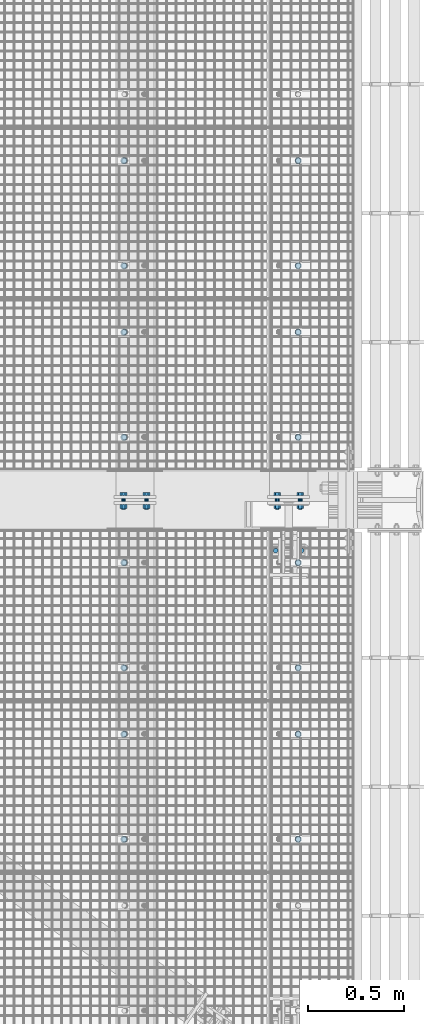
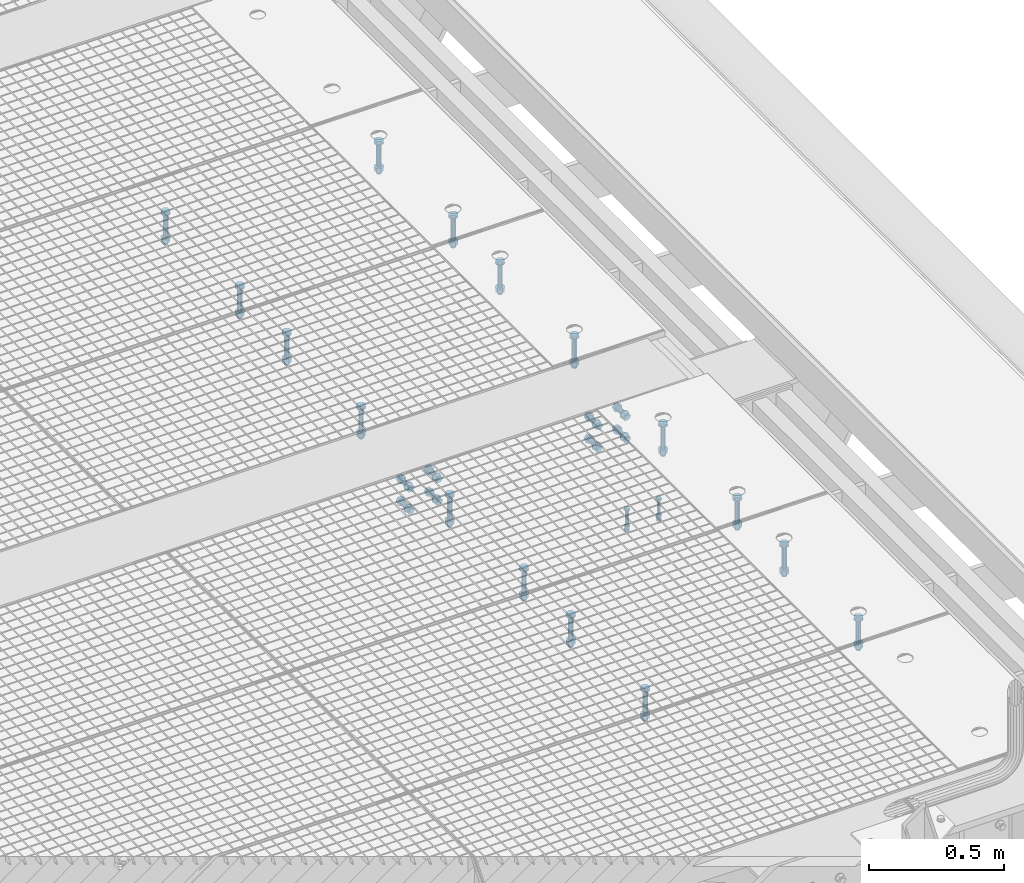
# One storey, part 52 of 1530: 11 mechanical fasteners.
"""IFC2X3 building model written with IfcOpenShell, lengths in millimetres."""

import ifcopenshell
import ifcopenshell.guid

model = None  # the IFC model being written
_history = None  # IfcOwnerHistory: only IFC2X3 demands one
_inside = {}  # id of a spatial element -> (the spatial element, [elements in it])
_under = {}  # id of a project, library or spatial element -> (it, [spatial elements below it])
_declared = {}  # id of a project -> (the project, [libraries it declares])
_typed = {}  # id of a type object -> (the type object, [elements of that type])
_made_of = {}  # id of a material, layer set ... -> (it, [elements and type objects made of it])


def new_model(schema):
    """Start an empty IFC model of exactly this schema.

    Asked for "IFC4X3", IfcOpenShell would pick the latest addendum, in which some entities
    have other attributes; the version numbers below select the first issue.
    IFC2X3 requires an IfcOwnerHistory on every rooted entity: one is made here for all.
    """
    global model, _history
    if schema == "IFC4X3":
        model = ifcopenshell.file(schema_version=(4, 3, 0, 0))
    else:
        model = ifcopenshell.file(schema=schema)
    _inside.clear()
    _under.clear()
    _declared.clear()
    _typed.clear()
    _made_of.clear()
    _history = None
    if model.schema == "IFC2X3":
        org = make("IfcOrganization", Name="unknown")
        user = make(
            "IfcPersonAndOrganization",
            ThePerson=make("IfcPerson", FamilyName="unknown"),
            TheOrganization=org,
        )
        app = make(
            "IfcApplication",
            ApplicationDeveloper=org,
            Version="unknown",
            ApplicationFullName="unknown",
            ApplicationIdentifier="unknown",
        )
        _history = make(
            "IfcOwnerHistory",
            OwningUser=user,
            OwningApplication=app,
            ChangeAction="ADDED",
            CreationDate=0,
        )
    return model


def make(cls, **values):
    """One entity of the class cls with the attributes given. An attribute that is None is left unset."""
    return model.create_entity(
        cls, **{name: value for name, value in values.items() if value is not None}
    )


def rooted(cls, **values):
    """An entity with a GlobalId (a new one), such as an element, a storey or a relation."""
    return make(cls, GlobalId=ifcopenshell.guid.new(), OwnerHistory=_history, **values)


def si_unit(unit_type, name, prefix=None):
    """IfcSIUnit, for example si_unit("LENGTHUNIT", "METRE", prefix="MILLI")."""
    return make("IfcSIUnit", UnitType=unit_type, Prefix=prefix, Name=name)


def assignment(units):
    """IfcUnitAssignment: the units of a project."""
    return None if units is None else make("IfcUnitAssignment", Units=units)


def point(xyz):
    """IfcCartesianPoint."""
    return None if xyz is None else make("IfcCartesianPoint", Coordinates=xyz)


def direction(xyz):
    """IfcDirection."""
    return None if xyz is None else make("IfcDirection", DirectionRatios=xyz)


def frame(location, z_axis=None, x_axis=None):
    """IfcAxis2Placement3D, a coordinate frame: its origin and axes. An axis left out is left unset."""
    return make(
        "IfcAxis2Placement3D",
        Location=point(location),
        Axis=direction(z_axis),
        RefDirection=direction(x_axis),
    )


def origin_with_axes():
    """The frame at (0, 0, 0) with the z axis (0, 0, 1) and the x axis (1, 0, 0) written out."""
    return frame((0.0, 0.0, 0.0), z_axis=(0.0, 0.0, 1.0), x_axis=(1.0, 0.0, 0.0))


def place(relative_to, where):
    """IfcLocalPlacement: puts the frame where relative to a parent placement (None: the world)."""
    return make(
        "IfcLocalPlacement", PlacementRelTo=relative_to, RelativePlacement=where
    )


def context(
    kind, dimensions, precision=None, world=None, true_north=None, identifier=None
):
    """IfcGeometricRepresentationContext, for example the 3D "Model" context."""
    return make(
        "IfcGeometricRepresentationContext",
        ContextIdentifier=identifier,
        ContextType=kind,
        CoordinateSpaceDimension=dimensions,
        Precision=precision,
        WorldCoordinateSystem=world,
        TrueNorth=true_north,
    )


def subcontext(parent, identifier, kind, view, scale=None):
    """IfcGeometricRepresentationSubContext, for example "Body" below "Model"."""
    return make(
        "IfcGeometricRepresentationSubContext",
        ContextIdentifier=identifier,
        ContextType=kind,
        ParentContext=parent,
        TargetScale=scale,
        TargetView=view,
    )


def project(units=None, contexts=None):
    """IfcProject with its units and contexts."""
    return rooted(
        "IfcProject",
        Name="project",
        RepresentationContexts=contexts,
        UnitsInContext=assignment(units),
    )


def spatial(cls, under=None, at=None, **own):
    """A site, building, storey or space (cls), placed at a placement, below another one or the project."""
    s = rooted(cls, ObjectPlacement=at, **own)
    if under is not None:
        _under.setdefault(under.id(), (under, []))[1].append(s)
    return s


def faces_of(points, faces, orient=None, outer=None):
    """IfcFace entities. A face is a list of loops; a loop is a list of indices into points, from 0.

    orient and outer hold one flag for each loop. By default every Orientation is true, the
    first loop of a face is its IfcFaceOuterBound and the others are IfcFaceBound.
    """
    made = []
    for i, loops in enumerate(faces):
        bounds = []
        for j, loop in enumerate(loops):
            is_outer = j == 0 if outer is None else outer[i][j]
            bounds.append(
                make(
                    "IfcFaceOuterBound" if is_outer else "IfcFaceBound",
                    Bound=make("IfcPolyLoop", Polygon=[points[k] for k in loop]),
                    Orientation=True if orient is None else orient[i][j],
                )
            )
        made.append(make("IfcFace", Bounds=bounds))
    return made


def faceted_brep(points, faces, orient=None, outer=None, voids=None):
    """IfcFacetedBrep: a solid bounded by flat faces; with voids (closed shells), ...WithVoids."""
    shared = [point(p) for p in points]
    hull = make("IfcClosedShell", CfsFaces=faces_of(shared, faces, orient, outer))
    if voids is None:
        return make("IfcFacetedBrep", Outer=hull)
    return make(
        "IfcFacetedBrepWithVoids",
        Outer=hull,
        Voids=[
            make(cls, CfsFaces=faces_of(shared, fs, o, b)) for cls, fs, o, b in voids
        ],
    )


def shape(context_of_items, identifier, shape_type, items):
    """IfcShapeRepresentation: the items that make up one representation, for example the "Body"."""
    return make(
        "IfcShapeRepresentation",
        ContextOfItems=context_of_items,
        RepresentationIdentifier=identifier,
        RepresentationType=shape_type,
        Items=items,
    )


def source(mapping_origin, context_of_items, identifier, shape_type, items):
    """IfcRepresentationMap: a shape defined once, which mapped items show again and again."""
    return make(
        "IfcRepresentationMap",
        MappingOrigin=mapping_origin,
        MappedRepresentation=shape(context_of_items, identifier, shape_type, items),
    )


def transform(
    local_origin,
    x_axis=None,
    y_axis=None,
    z_axis=None,
    scale=None,
    scale2=None,
    scale3=None,
    uniform=True,
):
    """IfcCartesianTransformationOperator3D, or its non-uniform kind. x_axis, y_axis, z_axis: its Axis1, 2, 3."""
    if uniform:
        return make(
            "IfcCartesianTransformationOperator3D",
            Axis1=direction(x_axis),
            Axis2=direction(y_axis),
            LocalOrigin=point(local_origin),
            Scale=scale,
            Axis3=direction(z_axis),
        )
    return make(
        "IfcCartesianTransformationOperator3DnonUniform",
        Axis1=direction(x_axis),
        Axis2=direction(y_axis),
        LocalOrigin=point(local_origin),
        Scale=scale,
        Axis3=direction(z_axis),
        Scale2=scale2,
        Scale3=scale3,
    )


def mapped(mapping_source, mapping_target):
    """IfcMappedItem: shows the shape of a source again, moved by a transform."""
    return make(
        "IfcMappedItem", MappingSource=mapping_source, MappingTarget=mapping_target
    )


def material(Name=None, Category=None):
    """IfcMaterial."""
    return make("IfcMaterial", Name=Name, Category=Category)


def made_of(thing, what):
    """Note that an element or type object is made of a material, layer set ...; save() writes the relation."""
    if what is not None:
        _made_of.setdefault(what.id(), (what, []))[1].append(thing)
    return thing


def type_object(cls, material=None, **own):
    """A type object (cls), such as IfcWallType, which elements share."""
    return made_of(rooted(cls, **own), material)


def element(
    cls,
    number,
    at=None,
    inside=None,
    cuts=None,
    type_object=None,
    material=None,
    context=None,
    identifier="Body",
    shape_type=None,
    held_by="IfcProductDefinitionShape",
    body=None,
    shapes=None,
    **own,
):
    """One element of the class cls, such as IfcWall. Its Tag is "e" and its number.

    at: its placement. inside: the storey or other place that contains it. cuts: it is an
    opening in that element (IfcRelVoidsElement). A single representation is given by context,
    identifier, shape_type and body (its items); several are given by shapes. held_by: the class
    of the entity that holds the representations. save() writes the other relations.
    """
    e = rooted(cls, Tag="e%d" % number, ObjectPlacement=at, **own)
    if body is not None:
        shapes = [shape(context, identifier, shape_type, body)]
    if shapes is not None:
        e.Representation = make(held_by, Representations=shapes)
    if inside is not None:
        _inside.setdefault(inside.id(), (inside, []))[1].append(e)
    if cuts is not None:
        rooted(
            "IfcRelVoidsElement", RelatingBuildingElement=cuts, RelatedOpeningElement=e
        )
    if type_object is not None:
        _typed.setdefault(type_object.id(), (type_object, []))[1].append(e)
    return made_of(e, material)


def aggregate(whole, parts):
    """IfcRelAggregates: a whole, such as a stair, and the parts it consists of."""
    return rooted("IfcRelAggregates", RelatingObject=whole, RelatedObjects=parts)


def save(model, path):
    """Write the relations noted so far, then the file.

    IfcRelAggregates (storeys below a building ...), IfcRelContainedInSpatialStructure (elements
    in a storey), IfcRelDefinesByType, IfcRelAssociatesMaterial and IfcRelDeclares: one each for
    every whole, place, type object, material and project.
    """
    for whole, parts in _under.values():
        aggregate(whole, parts)
    for where, things in _inside.values():
        rooted(
            "IfcRelContainedInSpatialStructure",
            RelatedElements=things,
            RelatingStructure=where,
        )
    for kind, things in _typed.values():
        rooted("IfcRelDefinesByType", RelatedObjects=things, RelatingType=kind)
    for what, things in _made_of.values():
        rooted("IfcRelAssociatesMaterial", RelatedObjects=things, RelatingMaterial=what)
    for by, libraries in _declared.values():
        rooted("IfcRelDeclares", RelatingContext=by, RelatedDefinitions=libraries)
    model.write(path)


model = new_model("IFC2X3")

# Units and contexts
model_context = context("Model", 3, precision=1e-05, world=origin_with_axes())
body_context = subcontext(model_context, "Body", "Model", "MODEL_VIEW")
ifc_project = project(units=[si_unit("LENGTHUNIT", "METRE", prefix="MILLI"), si_unit("AREAUNIT", "SQUARE_METRE"), si_unit("VOLUMEUNIT", "CUBIC_METRE"), si_unit("MASSUNIT", "GRAM", prefix="KILO"), si_unit("TIMEUNIT", "SECOND"), si_unit("PLANEANGLEUNIT", "RADIAN"), si_unit("SOLIDANGLEUNIT", "STERADIAN"), si_unit("THERMODYNAMICTEMPERATUREUNIT", "DEGREE_CELSIUS"), si_unit("LUMINOUSINTENSITYUNIT", "LUMEN")], contexts=[model_context])

# Site, building, storey
site_placement = place(None, origin_with_axes())
site = spatial("IfcSite", under=ifc_project, at=site_placement, Name="Brattvåg", CompositionType="ELEMENT")
building_placement = place(site_placement, origin_with_axes())
building = spatial("IfcBuilding", under=site, at=building_placement, Name="Undefined", CompositionType="ELEMENT")
storey_placement = place(building_placement, origin_with_axes())
storey = spatial("IfcBuildingStorey", under=building, at=storey_placement, Name="Undefined", CompositionType="ELEMENT", Elevation=0.0)

# Mechanical fasteners
ifc_material = material(Name="8")
mechanical_fastener_type = type_object("IfcMechanicalFastenerType", Name="Bolt assembly")
shared_shape_1 = source(origin_with_axes(), body_context, "Body", "Brep", [
    faceted_brep([(10.3923048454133, -9.99999999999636, 0.0), (5.19615242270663, -9.99999999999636, 9.0), (-5.19615242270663, -9.99999999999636, 9.0), (-10.3923048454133, -9.99999999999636, 1.27269028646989e-15), (-5.19615242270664, -9.99999999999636, -9.0), (5.19615242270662, -9.99999999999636, -9.0), (5.19615242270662, -2.49999999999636, -9.0), (-5.19615242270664, -2.49999999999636, -9.0), (-10.3923048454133, -2.49999999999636, 1.27269028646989e-15), (-5.19615242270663, -2.49999999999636, 9.0), (5.19615242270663, -2.49999999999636, 9.0), (10.3923048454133, -2.49999999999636, 0.0), (6.0, -2.49999999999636, 0.0), (5.19615242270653, -2.49999999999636, 3.00000000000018), (2.99999999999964, -2.49999999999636, 5.19615242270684), (-6.21801588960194e-13, -2.49999999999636, 6.0), (-3.00000000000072, -2.49999999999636, 5.19615242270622), (-5.19615242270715, -2.49999999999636, 2.9999999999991), (-6.0, -2.49999999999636, -1.24360317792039e-12), (-5.19615242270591, -2.49999999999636, -3.00000000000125), (-2.99999999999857, -2.49999999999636, -5.19615242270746), (1.85874342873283e-12, -2.49999999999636, -6.0), (3.00000000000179, -2.49999999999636, -5.1961524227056), (5.19615242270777, -2.49999999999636, -2.99999999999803), (5.19615242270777, 97.4999999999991, -2.99999999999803), (3.00000000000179, 97.4999999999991, -5.1961524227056), (1.85874342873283e-12, 97.4999999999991, -6.0), (-2.99999999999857, 97.4999999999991, -5.19615242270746), (-5.19615242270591, 97.4999999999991, -3.00000000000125), (-6.0, 97.4999999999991, -1.24360317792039e-12), (-5.19615242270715, 97.4999999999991, 2.9999999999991), (-3.00000000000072, 97.4999999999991, 5.19615242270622), (-6.21801588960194e-13, 97.4999999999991, 6.0), (2.99999999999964, 97.4999999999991, 5.19615242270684), (5.19615242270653, 97.4999999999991, 3.00000000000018), (6.0, 97.4999999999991, 0.0), (12.0, -2.49999999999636, 0.0), (10.3923048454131, -2.49999999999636, 6.00000000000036), (5.99999999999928, -2.49999999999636, 10.3923048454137), (-1.24360317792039e-12, -2.49999999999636, 12.0), (-6.00000000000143, -2.49999999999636, 10.3923048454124), (-10.3923048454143, -2.49999999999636, 5.99999999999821), (-12.0, -2.49999999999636, -2.48720635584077e-12), (-10.3923048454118, -2.49999999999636, -6.00000000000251), (-5.99999999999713, -2.49999999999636, -10.3923048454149), (3.71748685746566e-12, -2.49999999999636, -12.0), (6.00000000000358, -2.49999999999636, -10.3923048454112), (10.3923048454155, -2.49999999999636, -5.99999999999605), (10.3923048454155, 3.63797880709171e-12, -5.99999999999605), (6.00000000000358, 3.63797880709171e-12, -10.3923048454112), (3.71748685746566e-12, 3.63797880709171e-12, -12.0), (-5.99999999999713, 3.63797880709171e-12, -10.3923048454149), (-10.3923048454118, 3.63797880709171e-12, -6.00000000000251), (-12.0, 3.63797880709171e-12, -2.48720635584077e-12), (-10.3923048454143, 3.63797880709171e-12, 5.99999999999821), (-6.00000000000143, 3.63797880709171e-12, 10.3923048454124), (-1.24360317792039e-12, 3.63797880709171e-12, 12.0), (5.99999999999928, 3.63797880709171e-12, 10.3923048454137), (10.3923048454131, 3.63797880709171e-12, 6.00000000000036), (12.0, 3.63797880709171e-12, 0.0), (12.0, 69.9999999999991, 0.0), (10.3923048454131, 69.9999999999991, 6.00000000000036), (5.99999999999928, 69.9999999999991, 10.3923048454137), (-1.24360317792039e-12, 69.9999999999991, 12.0), (-6.00000000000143, 69.9999999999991, 10.3923048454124), (-10.3923048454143, 69.9999999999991, 5.99999999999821), (-12.0, 69.9999999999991, -2.48720635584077e-12), (-10.3923048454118, 69.9999999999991, -6.00000000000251), (-5.99999999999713, 69.9999999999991, -10.3923048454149), (3.71748685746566e-12, 69.9999999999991, -12.0), (6.00000000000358, 69.9999999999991, -10.3923048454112), (10.3923048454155, 69.9999999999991, -5.99999999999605), (10.3923048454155, 72.4999999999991, -5.99999999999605), (6.00000000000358, 72.4999999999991, -10.3923048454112), (3.71748685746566e-12, 72.4999999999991, -12.0), (-5.99999999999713, 72.4999999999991, -10.3923048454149), (-10.3923048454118, 72.4999999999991, -6.00000000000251), (-12.0, 72.4999999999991, -2.48720635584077e-12), (-10.3923048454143, 72.4999999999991, 5.99999999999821), (-6.00000000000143, 72.4999999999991, 10.3923048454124), (-1.24360317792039e-12, 72.4999999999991, 12.0), (5.99999999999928, 72.4999999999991, 10.3923048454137), (10.3923048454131, 72.4999999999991, 6.00000000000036), (12.0, 72.4999999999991, 0.0), (10.3923048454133, 72.4999999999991, 0.0), (5.19615242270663, 72.4999999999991, 9.0), (-5.19615242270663, 72.4999999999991, 9.0), (-10.3923048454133, 72.4999999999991, 1.27269028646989e-15), (-5.19615242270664, 72.4999999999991, -9.0), (5.19615242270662, 72.4999999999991, -9.0), (5.19615242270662, 83.300000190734, -9.0), (-5.19615242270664, 83.300000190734, -9.0), (-10.3923048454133, 83.300000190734, 1.27269028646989e-15), (-5.19615242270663, 83.300000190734, 9.0), (5.19615242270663, 83.300000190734, 9.0), (10.3923048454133, 83.300000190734, 0.0), (9.0, 83.300000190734, 5.19615242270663), (6.36345143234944e-16, 83.300000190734, 10.3923048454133), (-9.0, 83.300000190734, 5.19615242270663), (-9.0, 83.300000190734, -5.19615242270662), (-1.11392563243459e-14, 83.300000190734, -10.3923048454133), (8.99999999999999, 83.300000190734, -5.19615242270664), (8.99999999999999, 94.1000003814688, -5.19615242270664), (-1.11392563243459e-14, 94.1000003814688, -10.3923048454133), (-9.0, 94.1000003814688, -5.19615242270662), (-9.0, 94.1000003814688, 5.19615242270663), (6.36345143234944e-16, 94.1000003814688, 10.3923048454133), (9.0, 94.1000003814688, 5.19615242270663)], [[[0, 1, 2, 3, 4, 5]], [[6, 7, 8, 9, 10, 11]], [[0, 11, 10, 1]], [[1, 10, 9, 2]], [[2, 9, 8, 3]], [[3, 8, 7, 4]], [[4, 7, 6, 5]], [[5, 6, 11, 0]], [[12, 13, 14, 15, 16, 17, 18, 19, 20, 21, 22, 23]], [[24, 25, 26, 27, 28, 29, 30, 31, 32, 33, 34, 35]], [[12, 35, 34, 13]], [[13, 34, 33, 14]], [[14, 33, 32, 15]], [[15, 32, 31, 16]], [[16, 31, 30, 17]], [[17, 30, 29, 18]], [[18, 29, 28, 19]], [[19, 28, 27, 20]], [[20, 27, 26, 21]], [[21, 26, 25, 22]], [[22, 25, 24, 23]], [[23, 24, 35, 12]], [[36, 37, 38, 39, 40, 41, 42, 43, 44, 45, 46, 47]], [[48, 49, 50, 51, 52, 53, 54, 55, 56, 57, 58, 59]], [[36, 59, 58, 37]], [[37, 58, 57, 38]], [[38, 57, 56, 39]], [[39, 56, 55, 40]], [[40, 55, 54, 41]], [[41, 54, 53, 42]], [[42, 53, 52, 43]], [[43, 52, 51, 44]], [[44, 51, 50, 45]], [[45, 50, 49, 46]], [[46, 49, 48, 47]], [[47, 48, 59, 36]], [[60, 61, 62, 63, 64, 65, 66, 67, 68, 69, 70, 71]], [[72, 73, 74, 75, 76, 77, 78, 79, 80, 81, 82, 83]], [[60, 83, 82, 61]], [[61, 82, 81, 62]], [[62, 81, 80, 63]], [[63, 80, 79, 64]], [[64, 79, 78, 65]], [[65, 78, 77, 66]], [[66, 77, 76, 67]], [[67, 76, 75, 68]], [[68, 75, 74, 69]], [[69, 74, 73, 70]], [[70, 73, 72, 71]], [[71, 72, 83, 60]], [[84, 85, 86, 87, 88, 89]], [[90, 91, 92, 93, 94, 95]], [[84, 95, 94, 85]], [[85, 94, 93, 86]], [[86, 93, 92, 87]], [[87, 92, 91, 88]], [[88, 91, 90, 89]], [[89, 90, 95, 84]], [[96, 97, 98, 99, 100, 101]], [[102, 103, 104, 105, 106, 107]], [[96, 107, 106, 97]], [[97, 106, 105, 98]], [[98, 105, 104, 99]], [[99, 104, 103, 100]], [[100, 103, 102, 101]], [[101, 102, 107, 96]]]),
    faceted_brep([(7.0, -9.09494701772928e-13, 0.0), (6.06217782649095, -9.09494701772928e-13, 3.50000000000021), (3.49999999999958, -9.09494701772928e-13, 6.06217782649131), (-7.25435187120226e-13, -9.09494701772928e-13, 7.0), (-3.50000000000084, -9.09494701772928e-13, 6.06217782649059), (-6.06217782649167, -9.09494701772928e-13, 3.49999999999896), (-7.0, -9.09494701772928e-13, -1.45087037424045e-12), (-6.06217782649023, -9.09494701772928e-13, -3.50000000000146), (-3.49999999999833, -9.09494701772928e-13, -6.06217782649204), (2.1685340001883e-12, -9.09494701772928e-13, -7.0), (3.50000000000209, -9.09494701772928e-13, -6.06217782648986), (6.0621778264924, -9.09494701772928e-13, -3.4999999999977), (6.0621778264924, 70.0999999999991, -3.4999999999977), (3.50000000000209, 70.0999999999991, -6.06217782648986), (2.1685340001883e-12, 70.0999999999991, -7.0), (-3.49999999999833, 70.0999999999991, -6.06217782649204), (-6.06217782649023, 70.0999999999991, -3.50000000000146), (-7.0, 70.0999999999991, -1.45087037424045e-12), (-6.06217782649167, 70.0999999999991, 3.49999999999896), (-3.50000000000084, 70.0999999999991, 6.06217782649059), (-7.25435187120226e-13, 70.0999999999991, 7.0), (3.49999999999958, 70.0999999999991, 6.06217782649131), (6.06217782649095, 70.0999999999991, 3.50000000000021), (7.0, 70.0999999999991, 0.0)], [[[0, 1, 2, 3, 4, 5, 6, 7, 8, 9, 10, 11]], [[12, 13, 14, 15, 16, 17, 18, 19, 20, 21, 22, 23]], [[0, 23, 22, 1]], [[1, 22, 21, 2]], [[2, 21, 20, 3]], [[3, 20, 19, 4]], [[4, 19, 18, 5]], [[5, 18, 17, 6]], [[6, 17, 16, 7]], [[7, 16, 15, 8]], [[8, 15, 14, 9]], [[9, 14, 13, 10]], [[10, 13, 12, 11]], [[11, 12, 23, 0]]]),
])
mechanical_fastener_placement = place(storey_placement, frame((16490.003120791, 2734.99587631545, -410.000000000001), z_axis=(0.0, 1.0, 0.0), x_axis=(1.0, 0.0, 0.0)))
element("IfcMechanicalFastener", 1, at=mechanical_fastener_placement, inside=storey, type_object=mechanical_fastener_type, material=ifc_material, Name="Bolt assembly", NominalDiameter=12.0, NominalLength=100.0, context=body_context, shape_type="MappedRepresentation", body=[
    mapped(shared_shape_1, transform((0.0, 0.0, 0.0))),
    mapped(shared_shape_1, transform((136.0, 0.0, 0.0))),
])
shared_shape_2 = source(origin_with_axes(), body_context, "Body", "Brep", [
    faceted_brep([(17.3205080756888, -10.5, 0.0), (8.66025403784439, -10.5, 15.0), (-8.66025403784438, -10.5, 15.0), (-17.3205080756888, -10.5, 2.12115047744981e-15), (-8.66025403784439, -10.5, -15.0), (8.66025403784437, -10.5, -15.0), (8.66025403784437, 2.0, -15.0), (-8.66025403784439, 2.0, -15.0), (-17.3205080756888, 2.0, 2.12115047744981e-15), (-8.66025403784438, 2.0, 15.0), (8.66025403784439, 2.0, 15.0), (17.3205080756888, 2.0, 0.0), (10.0, 2.0, 0.0), (8.66025403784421, 2.0, 5.0000000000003), (4.9999999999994, 2.0, 8.66025403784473), (-1.03633598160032e-12, 2.0, 10.0), (-5.00000000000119, 2.0, 8.6602540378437), (-8.66025403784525, 2.0, 4.99999999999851), (-10.0, 2.0, -2.07267196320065e-12), (-8.66025403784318, 2.0, -5.00000000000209), (-4.99999999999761, 2.0, -8.66025403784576), (3.09790571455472e-12, 2.0, -10.0), (5.00000000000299, 2.0, -8.66025403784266), (8.66025403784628, 2.0, -4.99999999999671), (8.66025403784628, 142.0, -4.99999999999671), (5.00000000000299, 142.0, -8.66025403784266), (3.09790571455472e-12, 142.0, -10.0), (-4.99999999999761, 142.0, -8.66025403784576), (-8.66025403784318, 142.0, -5.00000000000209), (-10.0, 142.0, -2.07267196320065e-12), (-8.66025403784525, 142.0, 4.99999999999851), (-5.00000000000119, 142.0, 8.6602540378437), (-1.03633598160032e-12, 142.0, 10.0), (4.9999999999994, 142.0, 8.66025403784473), (8.66025403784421, 142.0, 5.0000000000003), (10.0, 142.0, 0.0), (18.5, 2.0, 0.0), (16.0214699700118, 2.0, 9.25000000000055), (9.2499999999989, 2.0, 16.0214699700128), (-1.9172215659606e-12, 2.0, 18.5), (-9.25000000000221, 2.0, 16.0214699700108), (-16.0214699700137, 2.0, 9.24999999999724), (-18.5, 2.0, -3.83444313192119e-12), (-16.0214699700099, 2.0, -9.25000000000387), (-9.24999999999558, 2.0, -16.0214699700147), (5.73112557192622e-12, 2.0, -18.5), (9.25000000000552, 2.0, -16.0214699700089), (16.0214699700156, 2.0, -9.24999999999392), (16.0214699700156, 5.0, -9.24999999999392), (9.25000000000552, 5.0, -16.0214699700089), (5.73112557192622e-12, 5.0, -18.5), (-9.24999999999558, 5.0, -16.0214699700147), (-16.0214699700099, 5.0, -9.25000000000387), (-18.5, 5.0, -3.83444313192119e-12), (-16.0214699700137, 5.0, 9.24999999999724), (-9.25000000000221, 5.0, 16.0214699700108), (-1.9172215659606e-12, 5.0, 18.5), (9.2499999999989, 5.0, 16.0214699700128), (16.0214699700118, 5.0, 9.25000000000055), (18.5, 5.0, 0.0), (18.5, 109.998931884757, 0.0), (16.0214699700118, 109.998931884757, 9.25000000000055), (9.2499999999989, 109.998931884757, 16.0214699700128), (-1.9172215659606e-12, 109.998931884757, 18.5), (-9.25000000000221, 109.998931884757, 16.0214699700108), (-16.0214699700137, 109.998931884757, 9.24999999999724), (-18.5, 109.998931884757, -3.83444313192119e-12), (-16.0214699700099, 109.998931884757, -9.25000000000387), (-9.24999999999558, 109.998931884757, -16.0214699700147), (5.73112557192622e-12, 109.998931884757, -18.5), (9.25000000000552, 109.998931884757, -16.0214699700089), (16.0214699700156, 109.998931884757, -9.24999999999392), (16.0214699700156, 112.998931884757, -9.24999999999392), (9.25000000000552, 112.998931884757, -16.0214699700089), (5.73112557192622e-12, 112.998931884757, -18.5), (-9.24999999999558, 112.998931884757, -16.0214699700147), (-16.0214699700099, 112.998931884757, -9.25000000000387), (-18.5, 112.998931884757, -3.83444313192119e-12), (-16.0214699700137, 112.998931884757, 9.24999999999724), (-9.25000000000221, 112.998931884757, 16.0214699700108), (-1.9172215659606e-12, 112.998931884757, 18.5), (9.2499999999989, 112.998931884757, 16.0214699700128), (16.0214699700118, 112.998931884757, 9.25000000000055), (18.5, 112.998931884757, 0.0), (17.3205080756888, 112.998931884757, 0.0), (8.66025403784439, 112.998931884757, 15.0), (-8.66025403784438, 112.998931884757, 15.0), (-17.3205080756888, 112.998931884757, 2.12115047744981e-15), (-8.66025403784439, 112.998931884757, -15.0), (8.66025403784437, 112.998931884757, -15.0), (8.66025403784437, 130.998931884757, -15.0), (-8.66025403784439, 130.998931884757, -15.0), (-17.3205080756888, 130.998931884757, 2.12115047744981e-15), (-8.66025403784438, 130.998931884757, 15.0), (8.66025403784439, 130.998931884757, 15.0), (17.3205080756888, 130.998931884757, 0.0)], [[[0, 1, 2, 3, 4, 5]], [[6, 7, 8, 9, 10, 11]], [[0, 11, 10, 1]], [[1, 10, 9, 2]], [[2, 9, 8, 3]], [[3, 8, 7, 4]], [[4, 7, 6, 5]], [[5, 6, 11, 0]], [[12, 13, 14, 15, 16, 17, 18, 19, 20, 21, 22, 23]], [[24, 25, 26, 27, 28, 29, 30, 31, 32, 33, 34, 35]], [[12, 35, 34, 13]], [[13, 34, 33, 14]], [[14, 33, 32, 15]], [[15, 32, 31, 16]], [[16, 31, 30, 17]], [[17, 30, 29, 18]], [[18, 29, 28, 19]], [[19, 28, 27, 20]], [[20, 27, 26, 21]], [[21, 26, 25, 22]], [[22, 25, 24, 23]], [[23, 24, 35, 12]], [[36, 37, 38, 39, 40, 41, 42, 43, 44, 45, 46, 47]], [[48, 49, 50, 51, 52, 53, 54, 55, 56, 57, 58, 59]], [[36, 59, 58, 37]], [[37, 58, 57, 38]], [[38, 57, 56, 39]], [[39, 56, 55, 40]], [[40, 55, 54, 41]], [[41, 54, 53, 42]], [[42, 53, 52, 43]], [[43, 52, 51, 44]], [[44, 51, 50, 45]], [[45, 50, 49, 46]], [[46, 49, 48, 47]], [[47, 48, 59, 36]], [[60, 61, 62, 63, 64, 65, 66, 67, 68, 69, 70, 71]], [[72, 73, 74, 75, 76, 77, 78, 79, 80, 81, 82, 83]], [[60, 83, 82, 61]], [[61, 82, 81, 62]], [[62, 81, 80, 63]], [[63, 80, 79, 64]], [[64, 79, 78, 65]], [[65, 78, 77, 66]], [[66, 77, 76, 67]], [[67, 76, 75, 68]], [[68, 75, 74, 69]], [[69, 74, 73, 70]], [[70, 73, 72, 71]], [[71, 72, 83, 60]], [[84, 85, 86, 87, 88, 89]], [[90, 91, 92, 93, 94, 95]], [[84, 95, 94, 85]], [[85, 94, 93, 86]], [[86, 93, 92, 87]], [[87, 92, 91, 88]], [[88, 91, 90, 89]], [[89, 90, 95, 84]]]),
])
for number, where, z_axis, x_axis, name in (
    (2, (16607.7533454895, 4225.00118255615, -25.0), (-1.0, 1.99999855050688e-09, 0.0), (0.0, 1.0, 0.0), "Bolt assembly"),
    (3, (15696.2016601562, 4224.99964141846, -25.0), (-1.0, 1.99999855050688e-09, 0.0), (0.0, 1.0, 0.0), "Bolt assembly"),
    (4, (16607.7533454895, 3328.00118255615, -25.0), (-1.0, 1.99999855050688e-09, 0.0), (0.0, 1.0, 0.0), "Bolt assembly"),
    (5, (15696.2016601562, 3327.99964141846, -25.0), (-1.0, 1.99999855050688e-09, 0.0), (0.0, 1.0, 0.0), "Bolt assembly"),
    (6, (16607.7533454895, 2122.00118255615, -25.0), (-1.0, 1.99999855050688e-09, 0.0), (0.0, 1.0, 0.0), "Bolt assembly"),
    (7, (15696.2016601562, 2121.99964141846, -25.0), (-1.0, 1.99999855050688e-09, 0.0), (0.0, 1.0, 0.0), "Bolt assembly"),
    (8, (16607.7533454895, 1225.00118255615, -25.0), (-1.0, 1.99999855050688e-09, 0.0), (0.0, 1.0, 0.0), "Bolt assembly"),
    (9, (15696.2016601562, 1224.99964141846, -25.0), (-1.0, 1.99999855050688e-09, 0.0), (0.0, 1.0, 0.0), "Bolt assembly"),
):
    element("IfcMechanicalFastener", number, at=place(storey_placement, frame(where, z_axis=z_axis, x_axis=x_axis)), inside=storey, type_object=mechanical_fastener_type, material=ifc_material, Name=name, NominalDiameter=20.0, NominalLength=140.0, context=body_context, shape_type="MappedRepresentation", body=[
        mapped(shared_shape_2, transform((0.0, 0.0, 0.0))),
        mapped(shared_shape_2, transform((549.999999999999, 0.0, 0.0))),
    ])
shared_shape_3 = source(origin_with_axes(), body_context, "Body", "Brep", [
    faceted_brep([(17.3205080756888, -15.5000000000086, 0.0), (8.66025403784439, -15.5000000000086, 15.0), (-8.66025403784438, -15.5000000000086, 15.0), (-17.3205080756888, -15.5000000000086, 2.12115047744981e-15), (-8.66025403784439, -15.5000000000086, -15.0), (8.66025403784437, -15.5000000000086, -15.0), (8.66025403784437, -3.00000000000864, -15.0), (-8.66025403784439, -3.00000000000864, -15.0), (-17.3205080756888, -3.00000000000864, 2.12115047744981e-15), (-8.66025403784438, -3.00000000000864, 15.0), (8.66025403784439, -3.00000000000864, 15.0), (17.3205080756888, -3.00000000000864, 0.0), (10.0, -3.00000000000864, 0.0), (8.66025403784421, -3.00000000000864, 5.0000000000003), (4.9999999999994, -3.00000000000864, 8.66025403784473), (-1.03633598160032e-12, -3.00000000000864, 10.0), (-5.00000000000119, -3.00000000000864, 8.6602540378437), (-8.66025403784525, -3.00000000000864, 4.99999999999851), (-10.0, -3.00000000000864, -2.07267196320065e-12), (-8.66025403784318, -3.00000000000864, -5.00000000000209), (-4.99999999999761, -3.00000000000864, -8.66025403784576), (3.09790571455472e-12, -3.00000000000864, -10.0), (5.00000000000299, -3.00000000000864, -8.66025403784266), (8.66025403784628, -3.00000000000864, -4.99999999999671), (8.66025403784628, 72.0, -4.99999999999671), (5.00000000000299, 72.0, -8.66025403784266), (3.09790571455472e-12, 72.0, -10.0), (-4.99999999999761, 72.0, -8.66025403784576), (-8.66025403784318, 72.0, -5.00000000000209), (-10.0, 72.0, -2.07267196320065e-12), (-8.66025403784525, 72.0, 4.99999999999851), (-5.00000000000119, 72.0, 8.6602540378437), (-1.03633598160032e-12, 72.0, 10.0), (4.9999999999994, 72.0, 8.66025403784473), (8.66025403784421, 72.0, 5.0000000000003), (10.0, 72.0, 0.0), (18.5, -3.00000000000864, 0.0), (16.0214699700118, -3.00000000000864, 9.25000000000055), (9.2499999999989, -3.00000000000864, 16.0214699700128), (-1.9172215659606e-12, -3.00000000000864, 18.5), (-9.25000000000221, -3.00000000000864, 16.0214699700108), (-16.0214699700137, -3.00000000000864, 9.24999999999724), (-18.5, -3.00000000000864, -3.83444313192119e-12), (-16.0214699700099, -3.00000000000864, -9.25000000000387), (-9.24999999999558, -3.00000000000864, -16.0214699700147), (5.73112557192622e-12, -3.00000000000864, -18.5), (9.25000000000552, -3.00000000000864, -16.0214699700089), (16.0214699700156, -3.00000000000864, -9.24999999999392), (16.0214699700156, -8.64019966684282e-12, -9.24999999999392), (9.25000000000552, -8.64019966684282e-12, -16.0214699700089), (5.73112557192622e-12, -8.64019966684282e-12, -18.5), (-9.24999999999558, -8.64019966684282e-12, -16.0214699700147), (-16.0214699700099, -8.64019966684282e-12, -9.25000000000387), (-18.5, -8.64019966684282e-12, -3.83444313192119e-12), (-16.0214699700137, -8.64019966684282e-12, 9.24999999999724), (-9.25000000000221, -8.64019966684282e-12, 16.0214699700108), (-1.9172215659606e-12, -8.64019966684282e-12, 18.5), (9.2499999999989, -8.64019966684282e-12, 16.0214699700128), (16.0214699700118, -8.64019966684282e-12, 9.25000000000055), (18.5, -8.64019966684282e-12, 0.0), (18.5, 46.000061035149, 0.0), (16.0214699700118, 46.000061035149, 9.25000000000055), (9.2499999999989, 46.000061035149, 16.0214699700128), (-1.9172215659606e-12, 46.000061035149, 18.5), (-9.25000000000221, 46.000061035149, 16.0214699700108), (-16.0214699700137, 46.000061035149, 9.24999999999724), (-18.5, 46.000061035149, -3.83444313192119e-12), (-16.0214699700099, 46.000061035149, -9.25000000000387), (-9.24999999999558, 46.000061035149, -16.0214699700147), (5.73112557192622e-12, 46.000061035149, -18.5), (9.25000000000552, 46.000061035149, -16.0214699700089), (16.0214699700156, 46.000061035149, -9.24999999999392), (16.0214699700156, 49.000061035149, -9.24999999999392), (9.25000000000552, 49.000061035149, -16.0214699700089), (5.73112557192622e-12, 49.000061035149, -18.5), (-9.24999999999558, 49.000061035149, -16.0214699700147), (-16.0214699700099, 49.000061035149, -9.25000000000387), (-18.5, 49.000061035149, -3.83444313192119e-12), (-16.0214699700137, 49.000061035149, 9.24999999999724), (-9.25000000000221, 49.000061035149, 16.0214699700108), (-1.9172215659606e-12, 49.000061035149, 18.5), (9.2499999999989, 49.000061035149, 16.0214699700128), (16.0214699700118, 49.000061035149, 9.25000000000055), (18.5, 49.000061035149, 0.0), (17.3205080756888, 49.000061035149, 0.0), (8.66025403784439, 49.000061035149, 15.0), (-8.66025403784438, 49.000061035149, 15.0), (-17.3205080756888, 49.000061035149, 2.12115047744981e-15), (-8.66025403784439, 49.000061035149, -15.0), (8.66025403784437, 49.000061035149, -15.0), (8.66025403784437, 67.000061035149, -15.0), (-8.66025403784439, 67.000061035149, -15.0), (-17.3205080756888, 67.000061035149, 2.12115047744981e-15), (-8.66025403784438, 67.000061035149, 15.0), (8.66025403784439, 67.000061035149, 15.0), (17.3205080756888, 67.000061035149, 0.0)], [[[0, 1, 2, 3, 4, 5]], [[6, 7, 8, 9, 10, 11]], [[0, 11, 10, 1]], [[1, 10, 9, 2]], [[2, 9, 8, 3]], [[3, 8, 7, 4]], [[4, 7, 6, 5]], [[5, 6, 11, 0]], [[12, 13, 14, 15, 16, 17, 18, 19, 20, 21, 22, 23]], [[24, 25, 26, 27, 28, 29, 30, 31, 32, 33, 34, 35]], [[12, 35, 34, 13]], [[13, 34, 33, 14]], [[14, 33, 32, 15]], [[15, 32, 31, 16]], [[16, 31, 30, 17]], [[17, 30, 29, 18]], [[18, 29, 28, 19]], [[19, 28, 27, 20]], [[20, 27, 26, 21]], [[21, 26, 25, 22]], [[22, 25, 24, 23]], [[23, 24, 35, 12]], [[36, 37, 38, 39, 40, 41, 42, 43, 44, 45, 46, 47]], [[48, 49, 50, 51, 52, 53, 54, 55, 56, 57, 58, 59]], [[36, 59, 58, 37]], [[37, 58, 57, 38]], [[38, 57, 56, 39]], [[39, 56, 55, 40]], [[40, 55, 54, 41]], [[41, 54, 53, 42]], [[42, 53, 52, 43]], [[43, 52, 51, 44]], [[44, 51, 50, 45]], [[45, 50, 49, 46]], [[46, 49, 48, 47]], [[47, 48, 59, 36]], [[60, 61, 62, 63, 64, 65, 66, 67, 68, 69, 70, 71]], [[72, 73, 74, 75, 76, 77, 78, 79, 80, 81, 82, 83]], [[60, 83, 82, 61]], [[61, 82, 81, 62]], [[62, 81, 80, 63]], [[63, 80, 79, 64]], [[64, 79, 78, 65]], [[65, 78, 77, 66]], [[66, 77, 76, 67]], [[67, 76, 75, 68]], [[68, 75, 74, 69]], [[69, 74, 73, 70]], [[70, 73, 72, 71]], [[71, 72, 83, 60]], [[84, 85, 86, 87, 88, 89]], [[90, 91, 92, 93, 94, 95]], [[84, 95, 94, 85]], [[85, 94, 93, 86]], [[86, 93, 92, 87]], [[87, 92, 91, 88]], [[88, 91, 90, 89]], [[89, 90, 95, 84]]]),
    faceted_brep([(11.0, 0.1, 0.0), (9.52627944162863, 0.1, 5.50000000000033), (5.49999999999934, 0.1, 9.5262794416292), (-1.13996957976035e-12, 0.1, 11.0), (-5.50000000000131, 0.1, 9.52627944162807), (-9.52627944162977, 0.1, 5.49999999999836), (-11.0, 0.1, -2.27993915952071e-12), (-9.5262794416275, 0.1, -5.5000000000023), (-5.49999999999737, 0.1, -9.52627944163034), (3.40769628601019e-12, 0.1, -11.0), (5.50000000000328, 0.1, -9.52627944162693), (9.52627944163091, 0.1, -5.49999999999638), (9.52627944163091, 15.1, -5.49999999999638), (5.50000000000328, 15.1, -9.52627944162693), (3.40769628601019e-12, 15.1, -11.0), (-5.49999999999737, 15.1, -9.52627944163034), (-9.5262794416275, 15.1, -5.5000000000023), (-11.0, 15.1, -2.27993915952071e-12), (-9.52627944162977, 15.1, 5.49999999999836), (-5.50000000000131, 15.1, 9.52627944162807), (-1.13996957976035e-12, 15.1, 11.0), (5.49999999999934, 15.1, 9.5262794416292), (9.52627944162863, 15.1, 5.50000000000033), (11.0, 15.1, 0.0), (11.0, 15.0015563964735, 0.0), (9.52627944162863, 15.0015563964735, 5.50000000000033), (5.49999999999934, 15.0015563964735, 9.5262794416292), (-1.13996957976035e-12, 15.0015563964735, 11.0), (-5.50000000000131, 15.0015563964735, 9.52627944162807), (-9.52627944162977, 15.0015563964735, 5.49999999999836), (-11.0, 15.0015563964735, -2.27993915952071e-12), (-9.5262794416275, 15.0015563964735, -5.5000000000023), (-5.49999999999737, 15.0015563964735, -9.52627944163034), (3.40769628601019e-12, 15.0015563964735, -11.0), (5.50000000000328, 15.0015563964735, -9.52627944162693), (9.52627944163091, 15.0015563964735, -5.49999999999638), (9.52627944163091, 31.0015563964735, -5.49999999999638), (5.50000000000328, 31.0015563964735, -9.52627944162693), (3.40769628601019e-12, 31.0015563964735, -11.0), (-5.49999999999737, 31.0015563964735, -9.52627944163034), (-9.5262794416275, 31.0015563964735, -5.5000000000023), (-11.0, 31.0015563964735, -2.27993915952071e-12), (-9.52627944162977, 31.0015563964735, 5.49999999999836), (-5.50000000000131, 31.0015563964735, 9.52627944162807), (-1.13996957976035e-12, 31.0015563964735, 11.0), (5.49999999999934, 31.0015563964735, 9.5262794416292), (9.52627944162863, 31.0015563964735, 5.50000000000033), (11.0, 31.0015563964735, 0.0), (11.0, 30.900061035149, 0.0), (9.52627944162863, 30.900061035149, 5.50000000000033), (5.49999999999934, 30.900061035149, 9.5262794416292), (-1.13996957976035e-12, 30.900061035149, 11.0), (-5.50000000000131, 30.900061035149, 9.52627944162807), (-9.52627944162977, 30.900061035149, 5.49999999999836), (-11.0, 30.900061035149, -2.27993915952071e-12), (-9.5262794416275, 30.900061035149, -5.5000000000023), (-5.49999999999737, 30.900061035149, -9.52627944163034), (3.40769628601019e-12, 30.900061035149, -11.0), (5.50000000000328, 30.900061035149, -9.52627944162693), (9.52627944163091, 30.900061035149, -5.49999999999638), (9.52627944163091, 46.000061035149, -5.49999999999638), (5.50000000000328, 46.000061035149, -9.52627944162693), (3.40769628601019e-12, 46.000061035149, -11.0), (-5.49999999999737, 46.000061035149, -9.52627944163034), (-9.5262794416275, 46.000061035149, -5.5000000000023), (-11.0, 46.000061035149, -2.27993915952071e-12), (-9.52627944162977, 46.000061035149, 5.49999999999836), (-5.50000000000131, 46.000061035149, 9.52627944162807), (-1.13996957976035e-12, 46.000061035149, 11.0), (5.49999999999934, 46.000061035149, 9.5262794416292), (9.52627944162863, 46.000061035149, 5.50000000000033), (11.0, 46.000061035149, 0.0)], [[[0, 1, 2, 3, 4, 5, 6, 7, 8, 9, 10, 11]], [[12, 13, 14, 15, 16, 17, 18, 19, 20, 21, 22, 23]], [[0, 23, 22, 1]], [[1, 22, 21, 2]], [[2, 21, 20, 3]], [[3, 20, 19, 4]], [[4, 19, 18, 5]], [[5, 18, 17, 6]], [[6, 17, 16, 7]], [[7, 16, 15, 8]], [[8, 15, 14, 9]], [[9, 14, 13, 10]], [[10, 13, 12, 11]], [[11, 12, 23, 0]], [[24, 25, 26, 27, 28, 29, 30, 31, 32, 33, 34, 35]], [[36, 37, 38, 39, 40, 41, 42, 43, 44, 45, 46, 47]], [[24, 47, 46, 25]], [[25, 46, 45, 26]], [[26, 45, 44, 27]], [[27, 44, 43, 28]], [[28, 43, 42, 29]], [[29, 42, 41, 30]], [[30, 41, 40, 31]], [[31, 40, 39, 32]], [[32, 39, 38, 33]], [[33, 38, 37, 34]], [[34, 37, 36, 35]], [[35, 36, 47, 24]], [[48, 49, 50, 51, 52, 53, 54, 55, 56, 57, 58, 59]], [[60, 61, 62, 63, 64, 65, 66, 67, 68, 69, 70, 71]], [[48, 71, 70, 49]], [[49, 70, 69, 50]], [[50, 69, 68, 51]], [[51, 68, 67, 52]], [[52, 67, 66, 53]], [[53, 66, 65, 54]], [[54, 65, 64, 55]], [[55, 64, 63, 56]], [[56, 63, 62, 57]], [[57, 62, 61, 58]], [[58, 61, 60, 59]], [[59, 60, 71, 48]]]),
])
for number, where, z_axis, x_axis, name in (
    (10, (16618.0019683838, 3023.00155639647, -219.998836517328), (0.0, 0.0, 1.0), (-1.0, 1.99999855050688e-09, 0.0), "Bolt assembly"),
    (11, (15814.0019683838, 3023.00155639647, -219.998836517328), (0.0, 0.0, 1.0), (-1.0, 1.99999855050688e-09, 0.0), "Bolt assembly"),
):
    element("IfcMechanicalFastener", number, at=place(storey_placement, frame(where, z_axis=z_axis, x_axis=x_axis)), inside=storey, type_object=mechanical_fastener_type, material=ifc_material, Name=name, NominalDiameter=20.0, NominalLength=75.0, context=body_context, shape_type="MappedRepresentation", body=[
        mapped(shared_shape_3, transform((0.0, 0.0, -50.0))),
        mapped(shared_shape_3, transform((120.0, 0.0, -50.0))),
        mapped(shared_shape_3, transform((0.0, 0.0, 50.0))),
        mapped(shared_shape_3, transform((120.0, 0.0, 50.0))),
    ])

save(model, "model.ifc")
